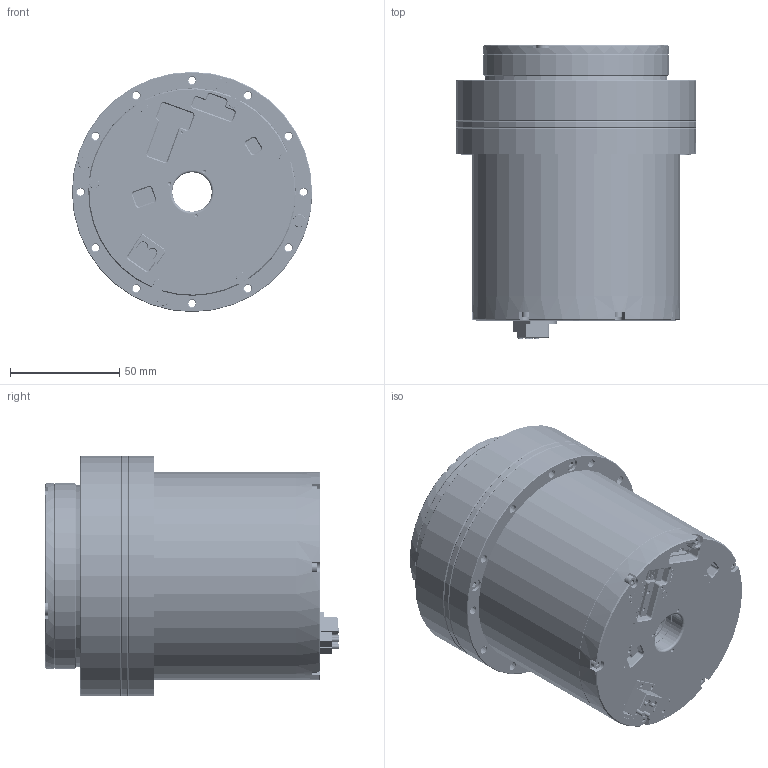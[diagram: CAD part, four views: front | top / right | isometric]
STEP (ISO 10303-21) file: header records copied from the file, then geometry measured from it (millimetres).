
FILE_DESCRIPTION (( 'STEP AP214' ), '1' );
FILE_NAME ('eRob 110 汔撰唳.STEP', '2021-12-14T09:20:44', ( 'User' ), ( 'China' ), 'SwSTEP 2.0', 'SolidWorks 2016', '' );
FILE_SCHEMA (( 'AUTOMOTIVE_DESIGN' ));
Length unit declared in the file: millimetre
Products named in the file (5): 蟀諉ん  XT30U-U; 怀堤傷; 萇儂; 脣芛嘐隅璃; eRob 110 汔撰唳
Assembly tree (5 placements, depth 2):
  eRob 110 汔撰唳
    萇儂
    怀堤傷
    脣芛嘐隅璃
    蟀諉ん  XT30U-U  x2
Bounding box: 110 x 134.4 x 110 mm (x, y, z)
Volume: 910678.5 mm3; surface area: 185794.6 mm2
Topology: 58 solids, 74 shells, 5129 faces, 13639 edges, 8860 vertices
Faces by surface type: plane 2671, cylinder 1669, bspline 446, cone 263, torus 80
Entity records: 212369 total; most frequent: CARTESIAN_POINT 90290, ORIENTED_EDGE 26826, DIRECTION 22823, EDGE_CURVE 13413, VERTEX_POINT 8776, LINE 8613, VECTOR 8613, AXIS2_PLACEMENT_3D 7105
